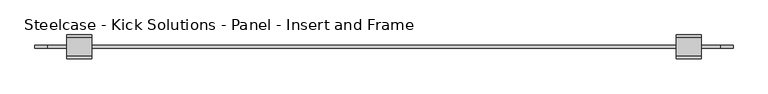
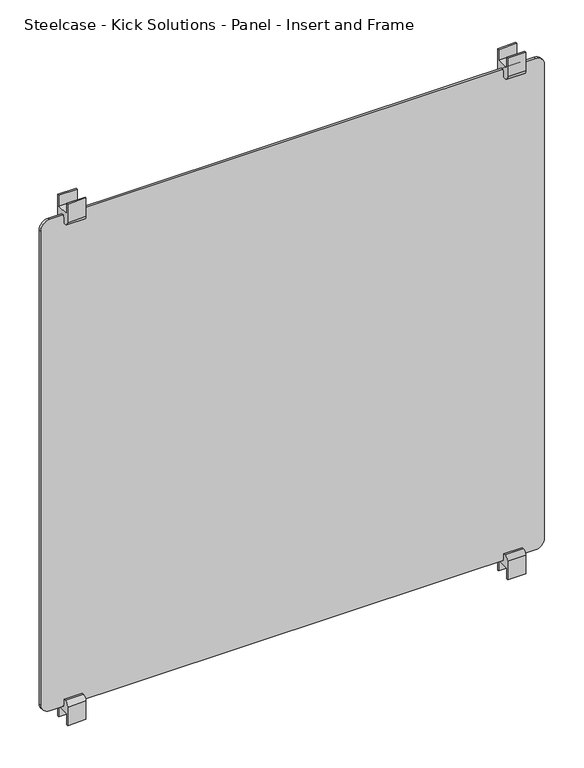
"""IFC4 building model written with IfcOpenShell, lengths in millimetres: furniture geometry, Steelcase - Kick Solutions - Panel - Insert and Frame : Laminate - 66H x 60W."""

from ifc_helpers import new_model, si_unit, point, frame, frame_2d, origin, place, context, project, spatial, polyline, circle_curve, trimmed, segment, composite_curve, outline, extrude, source, transform, mapped, element, save


def steelcase_kick_solutions_panel_insert_and_frame_14b7b0d7(model_context):
    return source(origin(), model_context, "Body", "SweptSolid", [
        extrude(outline(composite_curve([segment(polyline([(5.3821989, 1651.0), (10.144699, 1651.0), (10.144699, 1596.313221)]), True, "CONTINUOUS"), segment(trimmed(circle_curve(frame_2d((-1.6831687, 1596.313221)), 11.8278677), [point((10.144699, 1596.313221))], [point((-1.6831687, 1584.4853533))], False, "CARTESIAN"), True, "CONTINUOUS"), segment(polyline([(-1.6831687, 1584.4853533), (-7.3178012, 1584.4853533), (-7.3178012, 1599.8857521)]), True, "CONTINUOUS"), segment(trimmed(circle_curve(frame_2d((-13.667801, 1599.8857521)), 6.3499998), [point((-7.3178012, 1599.8857521))], [point((-20.0178007, 1599.8857521))], True, "CARTESIAN"), True, "CONTINUOUS"), segment(polyline([(-20.0178007, 1599.8857521), (-20.0178007, 1584.4853527), (-25.2074988, 1584.4853527)]), True, "CONTINUOUS"), segment(trimmed(circle_curve(frame_2d((-25.2074988, 1596.7581549)), 12.2728022), [point((-25.2074988, 1584.4853527))], [point((-37.480301, 1596.7581549))], False, "CARTESIAN"), True, "CONTINUOUS"), segment(polyline([(-37.480301, 1596.7581549), (-37.480301, 1651.0), (-32.7177988, 1651.0), (-32.7177988, 1619.2499758), (5.3821989, 1619.2499758), (5.3821989, 1651.0)]), True, "CONTINUOUS")], self_intersect=False)), frame((1347.1148583, 0.0, 0.0), z_axis=(1.0, 0.0, 0.0), x_axis=(0.0, 1.0, 0.0)), (0.0, 0.0, 1.0), 50.8),
        extrude(outline(composite_curve([segment(polyline([(5.3821989, 120.6499576), (5.3821989, 152.3999815), (-32.7177988, 152.3999815), (-32.7177988, 120.6499576), (-37.480301, 120.6499576), (-37.480301, 174.8918024)]), True, "CONTINUOUS"), segment(trimmed(circle_curve(frame_2d((-25.2074988, 174.8918024)), 12.2728022), [point((-37.480301, 174.8918024))], [point((-25.2074988, 187.1646046))], False, "CARTESIAN"), True, "CONTINUOUS"), segment(polyline([(-25.2074988, 187.1646046), (-20.0178007, 187.1646046), (-20.0178007, 171.7642058)]), True, "CONTINUOUS"), segment(trimmed(circle_curve(frame_2d((-13.667801, 171.7642058)), 6.3499998), [point((-20.0178007, 171.7642058))], [point((-7.3178012, 171.7642058))], True, "CARTESIAN"), True, "CONTINUOUS"), segment(polyline([(-7.3178012, 171.7642058), (-7.3178012, 187.1646046), (-1.6831687, 187.1646046)]), True, "CONTINUOUS"), segment(trimmed(circle_curve(frame_2d((-1.6831687, 175.3367369)), 11.8278677), [point((-1.6831687, 187.1646046))], [point((10.144699, 175.3367369))], False, "CARTESIAN"), True, "CONTINUOUS"), segment(polyline([(10.144699, 175.3367369), (10.144699, 120.6499576), (5.3821989, 120.6499576)]), True, "CONTINUOUS")], self_intersect=False)), frame((1347.1148583, 0.0, 0.0), z_axis=(1.0, 0.0, 0.0), x_axis=(0.0, 1.0, 0.0)), (0.0, 0.0, 1.0), 50.8),
        extrude(outline(composite_curve([segment(polyline([(5.3821989, 1651.0), (10.144699, 1651.0), (10.144699, 1596.3132204)]), True, "CONTINUOUS"), segment(trimmed(circle_curve(frame_2d((-1.6831684, 1596.3132204)), 11.8278674), [point((10.144699, 1596.3132204))], [point((-1.6831684, 1584.485353))], False, "CARTESIAN"), True, "CONTINUOUS"), segment(polyline([(-1.6831684, 1584.485353), (-7.3178009, 1584.485353), (-7.3178009, 1599.8857521)]), True, "CONTINUOUS"), segment(trimmed(circle_curve(frame_2d((-13.667801, 1599.8857521)), 6.3500001), [point((-7.3178009, 1599.8857521))], [point((-20.017801, 1599.8857521))], True, "CARTESIAN"), True, "CONTINUOUS"), segment(polyline([(-20.017801, 1599.8857521), (-20.017801, 1584.485353), (-25.2074991, 1584.485353)]), True, "CONTINUOUS"), segment(trimmed(circle_curve(frame_2d((-25.2074991, 1596.7581549)), 12.2728019), [point((-25.2074991, 1584.485353))], [point((-37.480301, 1596.7581549))], False, "CARTESIAN"), True, "CONTINUOUS"), segment(polyline([(-37.480301, 1596.7581549), (-37.480301, 1651.0), (-32.7177988, 1651.0), (-32.7177988, 1619.2499758), (5.3821989, 1619.2499758), (5.3821989, 1651.0)]), True, "CONTINUOUS")], self_intersect=False)), frame((126.0851417, 0.0, 0.0), z_axis=(1.0, 0.0, 0.0), x_axis=(0.0, 1.0, 0.0)), (0.0, 0.0, 1.0), 50.8),
        extrude(outline(composite_curve([segment(polyline([(5.3821989, 120.6499576), (5.3821989, 152.3999818), (-32.7177988, 152.3999818), (-32.7177988, 120.6499576), (-37.480301, 120.6499576), (-37.480301, 174.8918027)]), True, "CONTINUOUS"), segment(trimmed(circle_curve(frame_2d((-25.2074991, 174.8918027)), 12.2728019), [point((-37.480301, 174.8918027))], [point((-25.2074991, 187.1646046))], False, "CARTESIAN"), True, "CONTINUOUS"), segment(polyline([(-25.2074991, 187.1646046), (-20.017801, 187.1646046), (-20.017801, 171.7642055)]), True, "CONTINUOUS"), segment(trimmed(circle_curve(frame_2d((-13.667801, 171.7642055)), 6.3500001), [point((-20.017801, 171.7642055))], [point((-7.3178009, 171.7642055))], True, "CARTESIAN"), True, "CONTINUOUS"), segment(polyline([(-7.3178009, 171.7642055), (-7.3178009, 187.1646041), (-1.6831684, 187.1646041)]), True, "CONTINUOUS"), segment(trimmed(circle_curve(frame_2d((-1.6831684, 175.3367366)), 11.8278674), [point((-1.6831684, 187.1646041))], [point((10.144699, 175.3367366))], False, "CARTESIAN"), True, "CONTINUOUS"), segment(polyline([(10.144699, 175.3367366), (10.144699, 120.6499576), (5.3821989, 120.6499576)]), True, "CONTINUOUS")], self_intersect=False)), frame((126.0851417, 0.0, 0.0), z_axis=(1.0, 0.0, 0.0), x_axis=(0.0, 1.0, 0.0)), (0.0, 0.0, 1.0), 50.8),
        extrude(outline(composite_curve([segment(polyline([(1606.5499516, 1436.0148583), (1606.5499516, 87.9851417)]), True, "CONTINUOUS"), segment(trimmed(circle_curve(frame_2d((1581.1499516, 87.9851417)), 25.4), [point((1606.5499516, 87.9851417))], [point((1581.1499516, 62.5851417))], False, "CARTESIAN"), True, "CONTINUOUS"), segment(polyline([(1581.1499516, 62.5851417), (190.5000061, 62.5851417)]), True, "CONTINUOUS"), segment(trimmed(circle_curve(frame_2d((190.5000061, 87.9851417)), 25.4), [point((190.5000061, 62.5851417))], [point((165.1000061, 87.9851417))], False, "CARTESIAN"), True, "CONTINUOUS"), segment(polyline([(165.1000061, 87.9851417), (165.1000061, 1436.0148583)]), True, "CONTINUOUS"), segment(trimmed(circle_curve(frame_2d((190.5000061, 1436.0148583)), 25.4), [point((165.1000061, 1436.0148583))], [point((190.5000061, 1461.4148583))], False, "CARTESIAN"), True, "CONTINUOUS"), segment(polyline([(190.5000061, 1461.4148583), (1581.1499516, 1461.4148583)]), True, "CONTINUOUS"), segment(trimmed(circle_curve(frame_2d((1581.1499516, 1436.0148583)), 25.4), [point((1581.1499516, 1461.4148583))], [point((1606.5499516, 1436.0148583))], False, "CARTESIAN"), True, "CONTINUOUS")], self_intersect=False)), frame((0.0, -16.8428004, 0.0), z_axis=(0.0, 1.0, 0.0), x_axis=(0.0, 0.0, 1.0)), (0.0, 0.0, 1.0), 6.3499985),
    ])


if __name__ == "__main__":
    model = new_model("IFC4")
    model_context = context("Model", 3, world=origin())
    ifc_project = project(units=[si_unit("LENGTHUNIT", "METRE", prefix="MILLI")], contexts=[model_context])
    site = spatial("IfcSite", under=ifc_project)
    building = spatial("IfcBuilding", under=site)
    placement = place(None, origin())
    steelcase_kick_solutions_panel_insert_and_frame_shape = steelcase_kick_solutions_panel_insert_and_frame_14b7b0d7(model_context)
    element("IfcFurniture", 1, ObjectType="Steelcase - Kick Solutions - Panel - Insert and Frame : Laminate - 66H x 60W", at=placement, inside=building, context=model_context, shape_type="MappedRepresentation", body=[
        mapped(steelcase_kick_solutions_panel_insert_and_frame_shape, transform((0.0, 0.0, 0.0), x_axis=(1.0, 0.0, 0.0), y_axis=(0.0, 1.0, 0.0), z_axis=(0.0, 0.0, 1.0))),
    ])
    save(model, "model.ifc")
